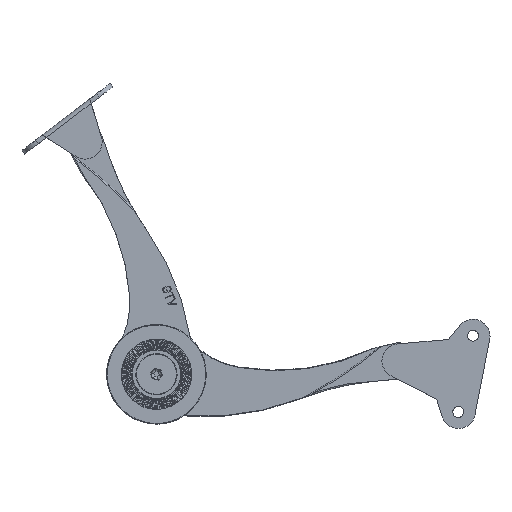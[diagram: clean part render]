
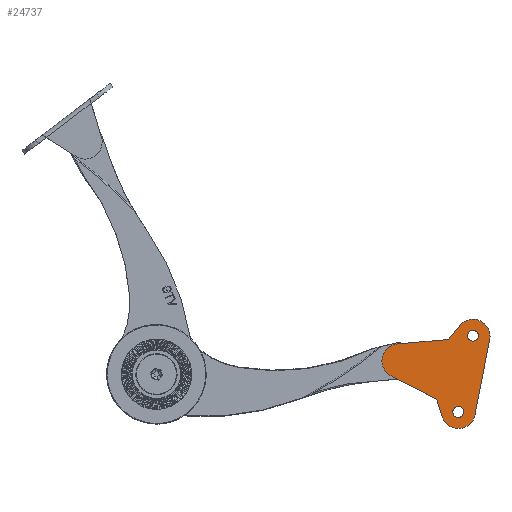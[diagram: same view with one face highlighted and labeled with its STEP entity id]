
A CAD part, top view. The second image highlights one B-rep face of the part: STEP entity #24737.
In plain terms, the highlighted planar face has unit normal (0, 0, 1) as drawn and (0, 0, -1) by its records, which use the part's own axes.
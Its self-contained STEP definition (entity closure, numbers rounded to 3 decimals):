
#1114=FACE_BOUND('',#4108,.T.);
#1115=FACE_BOUND('',#4109,.T.);
#1877=PLANE('',#26518);
#2975=FACE_OUTER_BOUND('',#4107,.T.);
#4107=EDGE_LOOP('',(#22250,#22251,#22252,#22253,#22254,#22255,#22256,#22257));
#4108=EDGE_LOOP('',(#22258));
#4109=EDGE_LOOP('',(#22259));
#6150=LINE('',#48221,#8208);
#6153=LINE('',#48227,#8211);
#6157=LINE('',#48239,#8215);
#6160=LINE('',#48245,#8218);
#6166=LINE('',#48272,#8224);
#8208=VECTOR('',#31892,10.);
#8211=VECTOR('',#31897,10.);
#8215=VECTOR('',#31909,10.);
#8218=VECTOR('',#31914,10.);
#8224=VECTOR('',#31946,10.);
#8813=CIRCLE('',#26501,7.);
#8814=CIRCLE('',#26505,7.);
#8817=CIRCLE('',#26509,7.);
#8818=CIRCLE('',#26511,2.25);
#8820=CIRCLE('',#26514,2.25);
#11364=VERTEX_POINT('',#48218);
#11365=VERTEX_POINT('',#48220);
#11367=VERTEX_POINT('',#48226);
#11369=VERTEX_POINT('',#48232);
#11371=VERTEX_POINT('',#48238);
#11373=VERTEX_POINT('',#48244);
#11374=VERTEX_POINT('',#48248);
#11377=VERTEX_POINT('',#48256);
#11378=VERTEX_POINT('',#48260);
#11380=VERTEX_POINT('',#48266);
#14980=EDGE_CURVE('',#11365,#11364,#6150,.T.);
#14983=EDGE_CURVE('',#11367,#11365,#6153,.T.);
#14986=EDGE_CURVE('',#11369,#11367,#8813,.T.);
#14989=EDGE_CURVE('',#11371,#11369,#6157,.T.);
#14992=EDGE_CURVE('',#11373,#11371,#6160,.T.);
#14994=EDGE_CURVE('',#11373,#11374,#8814,.T.);
#14999=EDGE_CURVE('',#11377,#11364,#8817,.T.);
#15000=EDGE_CURVE('',#11378,#11378,#8818,.T.);
#15003=EDGE_CURVE('',#11380,#11380,#8820,.T.);
#15006=EDGE_CURVE('',#11374,#11377,#6166,.T.);
#22250=ORIENTED_EDGE('',*,*,#15006,.F.);
#22251=ORIENTED_EDGE('',*,*,#14994,.F.);
#22252=ORIENTED_EDGE('',*,*,#14992,.T.);
#22253=ORIENTED_EDGE('',*,*,#14989,.T.);
#22254=ORIENTED_EDGE('',*,*,#14986,.T.);
#22255=ORIENTED_EDGE('',*,*,#14983,.T.);
#22256=ORIENTED_EDGE('',*,*,#14980,.T.);
#22257=ORIENTED_EDGE('',*,*,#14999,.F.);
#22258=ORIENTED_EDGE('',*,*,#15000,.T.);
#22259=ORIENTED_EDGE('',*,*,#15003,.T.);
#24737=ADVANCED_FACE('',(#2975,#1114,#1115),#1877,.F.);
#26501=AXIS2_PLACEMENT_3D('',#48233,#31903,#31904);
#26505=AXIS2_PLACEMENT_3D('',#48249,#31918,#31919);
#26509=AXIS2_PLACEMENT_3D('',#48258,#31928,#31929);
#26511=AXIS2_PLACEMENT_3D('',#48261,#31932,#31933);
#26514=AXIS2_PLACEMENT_3D('',#48267,#31939,#31940);
#26518=AXIS2_PLACEMENT_3D('',#48275,#31950,#31951);
#31892=DIRECTION('',(0.882,-0.471,0.));
#31897=DIRECTION('',(0.274,-0.962,0.));
#31903=DIRECTION('center_axis',(0.,0.,-1.));
#31904=DIRECTION('ref_axis',(0.962,0.274,0.));
#31909=DIRECTION('',(0.274,0.962,0.));
#31914=DIRECTION('',(0.882,0.471,0.));
#31918=DIRECTION('center_axis',(0.,0.,1.));
#31919=DIRECTION('ref_axis',(0.,1.,0.));
#31928=DIRECTION('center_axis',(0.,0.,1.));
#31929=DIRECTION('ref_axis',(0.,-1.,0.));
#31932=DIRECTION('center_axis',(0.,0.,1.));
#31933=DIRECTION('ref_axis',(-1.,0.,0.));
#31939=DIRECTION('center_axis',(0.,0.,1.));
#31940=DIRECTION('ref_axis',(-1.,0.,0.));
#31946=DIRECTION('',(1.,0.,0.));
#31950=DIRECTION('center_axis',(0.,0.,1.));
#31951=DIRECTION('ref_axis',(1.,0.,0.));
#48218=CARTESIAN_POINT('',(19.099,6.174,0.));
#48220=CARTESIAN_POINT('',(12.5,9.7,0.));
#48221=CARTESIAN_POINT('',(19.099,6.174,0.));
#48226=CARTESIAN_POINT('',(6.731,29.92,0.));
#48227=CARTESIAN_POINT('',(12.5,9.7,0.));
#48232=CARTESIAN_POINT('',(-6.731,29.92,0.));
#48233=CARTESIAN_POINT('Origin',(0.,28.,0.));
#48238=CARTESIAN_POINT('',(-12.5,9.7,0.));
#48239=CARTESIAN_POINT('',(-6.731,29.92,0.));
#48244=CARTESIAN_POINT('',(-19.099,6.174,0.));
#48245=CARTESIAN_POINT('',(-12.5,9.7,0.));
#48248=CARTESIAN_POINT('',(-15.8,-7.,0.));
#48249=CARTESIAN_POINT('Origin',(-15.8,0.,0.));
#48256=CARTESIAN_POINT('',(15.8,-7.,0.));
#48258=CARTESIAN_POINT('Origin',(15.8,0.,0.));
#48260=CARTESIAN_POINT('',(18.25,0.,0.));
#48261=CARTESIAN_POINT('Origin',(16.,0.,0.));
#48266=CARTESIAN_POINT('',(-13.75,0.,0.));
#48267=CARTESIAN_POINT('Origin',(-16.,0.,0.));
#48272=CARTESIAN_POINT('',(-15.8,-7.,0.));
#48275=CARTESIAN_POINT('Origin',(0.,0.,
0.));
